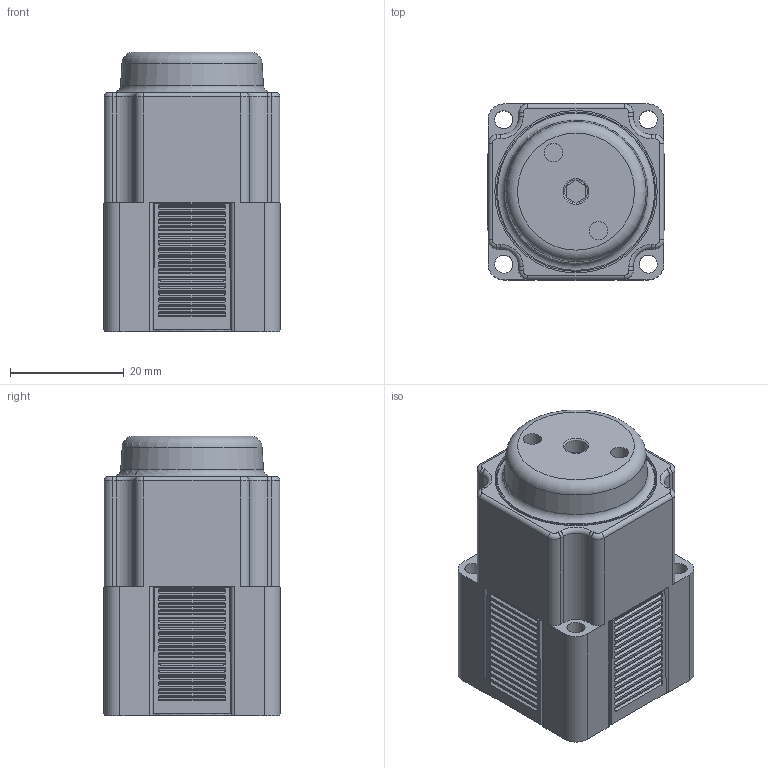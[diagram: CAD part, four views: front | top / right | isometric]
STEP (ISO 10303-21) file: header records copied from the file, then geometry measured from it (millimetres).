
FILE_DESCRIPTION(/* description */ (''),/* implementation_level */ '2;1');
FILE_NAME(/* name */ 'K:\Normteile INVENTOR\Air-Logic\Regulators\PR7000\PR 7___ B Blank Dovetail.igs.ipt.stp',/* time_stamp */ '2020-05-27T10:54:39+02:00',/* author */ ('Paul'),/* organization */ (''),/* preprocessor_version */ 'ST-DEVELOPER v18',/* originating_system */ 'Autodesk Inventor 2020',/* authorisation */ '');
FILE_SCHEMA (('AUTOMOTIVE_DESIGN { 1 0 10303 214 3 1 1 }'));
Length unit declared in the file: inch
Products named in the file (1): PR 7___ B Blank Dovetail.igs
Bounding box: 31.19 x 31.19 x 49.15 mm (x, y, z)
Volume: 39382.5 mm3; surface area: 11813.2 mm2
Topology: 1 solids, 1 shells, 637 faces, 1623 edges, 1052 vertices
Faces by surface type: plane 328, cylinder 275, torus 17, bspline 16, cone 1
Full cylindrical faces by diameter (mm): 3.175 x4, 3.226 x2, 4.013 x1, 26.264 x1, 27.991 x1, 28.047 x1, 28.575 x1
Entity records: 21413 total; most frequent: CARTESIAN_POINT 4716, DIRECTION 3598, ORIENTED_EDGE 3246, EDGE_CURVE 1623, AXIS2_PLACEMENT_3D 1445, VERTEX_POINT 1052, EDGE_LOOP 717, LINE 708
